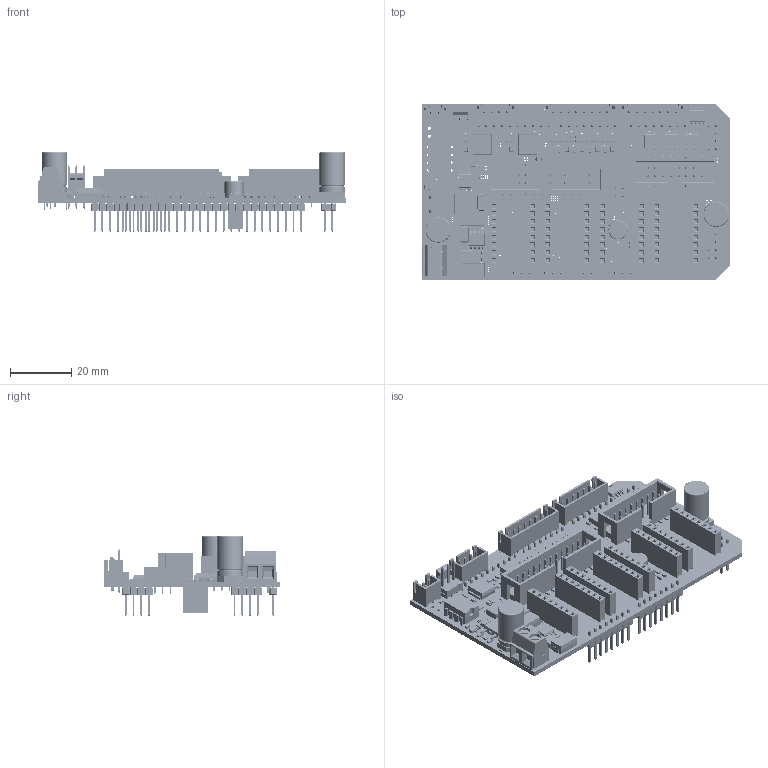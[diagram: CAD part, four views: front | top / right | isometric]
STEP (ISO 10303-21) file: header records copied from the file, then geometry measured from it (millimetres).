
FILE_DESCRIPTION(/* description */ (''),/* implementation_level */ '2;1');
FILE_NAME(/* name */ '/Volumes/Mini_1TB_01/tkramm/Nextcloud/eagle/projects/Protoworx/padds/Hardware/eagle/PADDS/0.93/assembly/PADDS_975.step',/* time_stamp */ '2021-11-15T10:43:50+01:00',/* author */ (''),/* organization */ (''),/* preprocessor_version */ 'ST-DEVELOPER v18.1',/* originating_system */ 'Autodesk Translation Framework v10.10.0.1391',/* authorisation */ '');
FILE_SCHEMA (('AUTOMOTIVE_DESIGN { 1 0 10303 214 3 1 1 }'));
Products named in the file (57): PADDS; PADDS_PCB_0.93; PADDS_0.91_Board; EL357N(A)(TA)-G; 22-23-2031; AT24C256C-SSHL-T; 25665158; Part 9; Part 8; Part 7; Part 6; Part 5; Part 4; Part 3; Part 2; Part 1; AOD4184ATO252; ML16SMD; Pin_Header; Pin_Header(Mirror); ML24SMD; Pin_Header (1); Pin_Header(Mirror) (1); B8B-XH-A; B7B-XH-A; B4B-XH-A; ATTINY85-20PUDIP-8; B2B-XH-A; MKDSN1,5/2-5,08; mkdsn_1.5-2-5.08; ARDUINO_DUE_SHIELD; Pin Header 1x10 TH Pitch 2.54mm v1; Pin Header 2x4 TH Pitch 2.54mm v1; zl262-6d_p2-54_l8-12_w5_h8-5 v1; Pin Header 1x8 TH Pitch 2.54mm v1; 100nF; 220uF; CHIPLED_0805_GREEN; yellow; POLOLULU2128POLOLU_SOCKET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
Assembly tree (155 placements, depth 5):
  PADDS
    PADDS_PCB_0.93
      PADDS_0.91_Board
      EL357N(A)(TA)-G  x4
      100nF  x8
      22-23-2031
      AT24C256C-SSHL-T
        25665158
          Part 9
          Part 8
          Part 7
          Part 6
          Part 5
          Part 4
          Part 3
          Part 2
          Part 1
      AO3400A  x5
      AOD4184ATO252  x2
      ML16SMD
        Pin_Header  x8
        Pin_Header(Mirror)  x8
      ML24SMD
        Pin_Header (1)  x12
        Pin_Header(Mirror) (1)  x12
      B8B-XH-A
      B7B-XH-A
      B4B-XH-A
      ATTINY85-20PUDIP-8
      B2B-XH-A
      MKDSN1,5/2-5,08
        mkdsn_1.5-2-5.08
      ARDUINO_DUE_SHIELD
        Pin Header 1x10 TH Pitch 2.54mm v1
        Pin Header 1x8 TH Pitch 2.54mm v1  x4
        Pin Header 2x4 TH Pitch 2.54mm v1  x2
        zl262-6d_p2-54_l8-12_w5_h8-5 v1
      220uF
      CHIPLED_0805_GREEN
      yellow  x6
      POLOLULU2128POLOLU_SOCKET
        zl262-8s_p2-54_l20-8_w2-54_h8-5 v1  x2
      POLOLULU2128POLOLU_SOCKET_1
        zl262-8s_p2-54_l20-8_w2-54_h8-5 v1  x2
      POLOLULU2128POLOLU_SOCKET_2
        zl262-8s_p2-54_l20-8_w2-54_h8-5 v1  x2
      POLOLULU2128POLOLU_SOCKET_3
        zl262-8s_p2-54_l20-8_w2-54_h8-5 v1  x2
      33k  x8
      FDD4141TO252
      TPS5430DDADDA8_3P1X2P4-L
      B340A_C433997  x2
      MWSA0402S-220MT
      220uF_C147767  x2
      PZ1608U600-2R5TF
      ME6203_C92717
      220uF_1  x2
      4K7  x23
      100nF_1
      1N5819WS
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Bounding box: 101 x 57.5 x 26.11 mm (x, y, z)
Volume: 20640.8 mm3; surface area: 39232.6 mm2
Topology: 265 solids, 387 shells, 11710 faces, 28734 edges, 18113 vertices
Faces by surface type: plane 8735, cylinder 2041, sphere 498, bspline 264, torus 166, cone 6
Full cylindrical faces by diameter (mm): 0.199 x1, 0.3 x9, 0.35 x145, 0.4 x1, 0.457 x1, 0.5 x45, 0.762 x1, 0.8 x64, 0.813 x8, 0.9 x83, 1 x5, 1.016 x2, 1.3 x4, 3.8 x2, 3.83 x2, 6.3 x2, 8.3 x4
Entity records: 157522 total; most frequent: CARTESIAN_POINT 33875, ORIENTED_EDGE 24594, DIRECTION 23303, EDGE_CURVE 12361, LINE 10247, VECTOR 10247, VERTEX_POINT 7942, AXIS2_PLACEMENT_3D 6528
